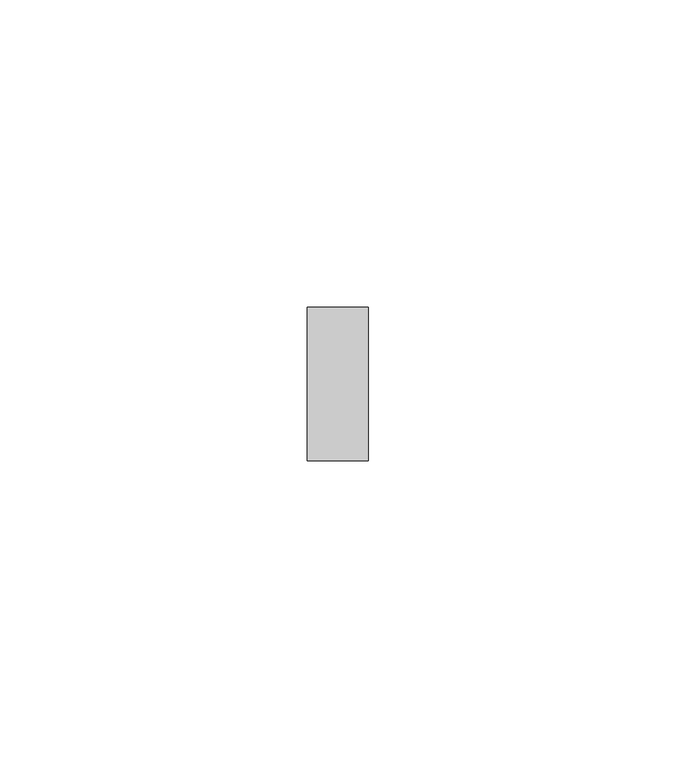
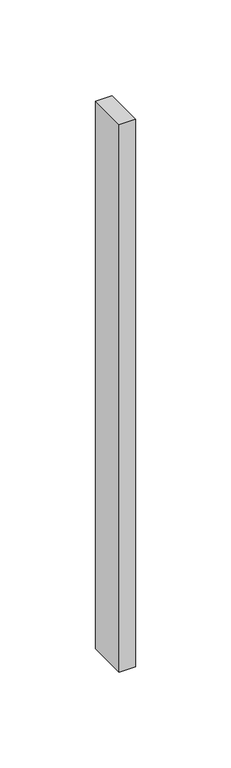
"""IFC4 building model written with IfcOpenShell, lengths in millimetres: plate geometry, 系统嵌板 : 玻璃."""

from ifc_helpers import new_model, si_unit, origin, origin_with_axes, place, context, project, spatial, polyline, outline, extrude, source, transform, mapped, element, save


def plate_56329b22(model_context):
    return source(origin(), model_context, "Body", "SweptSolid", [
        extrude(outline(polyline([(5.0, -12.5), (-5.0, -12.5), (-5.0, 12.5), (5.0, 12.5), (5.0, -12.5)])), origin_with_axes(), (0.0, 0.0, 1.0), 350.0),
    ])


if __name__ == "__main__":
    model = new_model("IFC4")
    model_context = context("Model", 3, world=origin())
    ifc_project = project(units=[si_unit("LENGTHUNIT", "METRE", prefix="MILLI")], contexts=[model_context])
    site = spatial("IfcSite", under=ifc_project)
    building = spatial("IfcBuilding", under=site)
    placement = place(None, origin())
    plate_shape = plate_56329b22(model_context)
    element("IfcPlate", 1, ObjectType="系统嵌板 : 玻璃", at=placement, inside=building, context=model_context, shape_type="MappedRepresentation", body=[
        mapped(plate_shape, transform((0.0, 0.0, 0.0), x_axis=(1.0, 0.0, 0.0), y_axis=(0.0, 1.0, 0.0), z_axis=(0.0, 0.0, 1.0))),
    ])
    save(model, "model.ifc")
